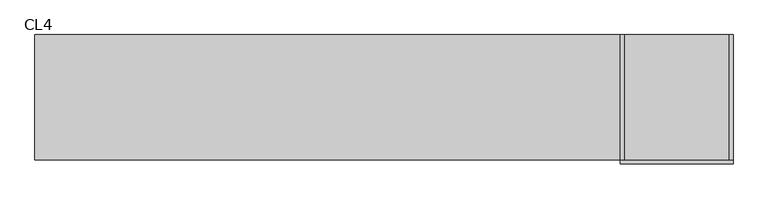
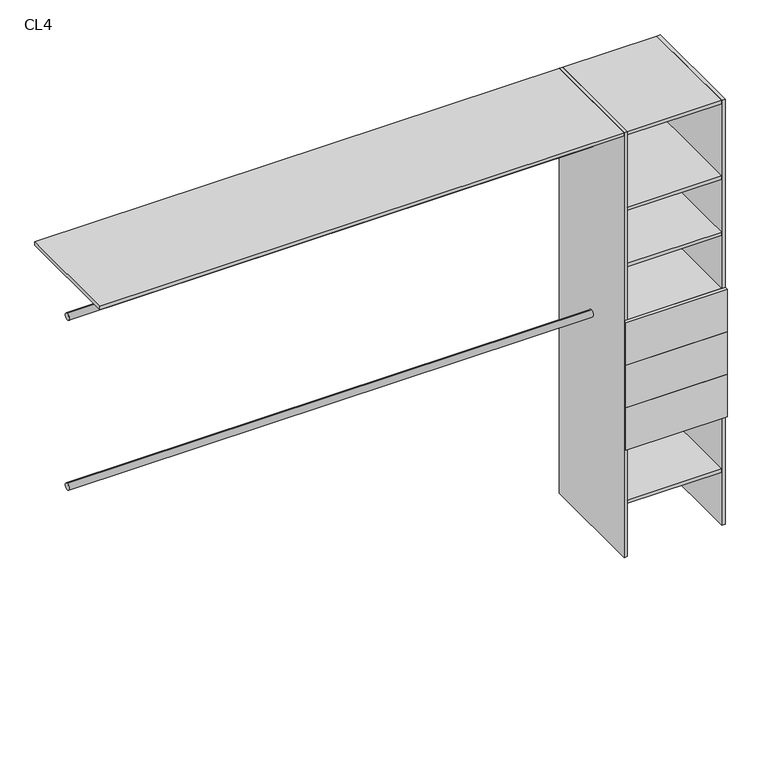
"""IFC4 building model written with IfcOpenShell, lengths in millimetres: furniture geometry, Closet 1estantes-1tubos_sin laterales : CL4."""

from ifc_helpers import new_model, si_unit, point, frame, frame_2d, origin, origin_with_axes, place, context, project, spatial, polyline, circle_curve, trimmed, segment, composite_curve, outline, extrude, source, transform, mapped, element, save


def cl4_a28d6900(model_context):
    return source(origin(), model_context, "Body", "SweptSolid", [
        extrude(outline(polyline([(225.0, 100.0), (210.0, 100.0), (210.0, 600.0), (225.0, 600.0), (225.0, 100.0)])), origin_with_axes(), (0.0, 0.0, 1.0), 2000.0),
        extrude(outline(polyline([(-210.0, 100.0), (-225.0, 100.0), (-225.0, 600.0), (-210.0, 600.0), (-210.0, 100.0)])), origin_with_axes(), (0.0, 0.0, 1.0), 2000.0),
        extrude(outline(polyline([(225.0, 100.0), (225.0, 85.0), (-225.0, 85.0), (-225.0, 100.0), (225.0, 100.0)])), frame((0.0, 0.0, 915.0), z_axis=(0.0, 0.0, 1.0), x_axis=(1.0, 0.0, 0.0)), (0.0, 0.0, 1.0), 200.0),
        extrude(outline(polyline([(225.0, 100.0), (225.0, 85.0), (-225.0, 85.0), (-225.0, 100.0), (225.0, 100.0)])), frame((0.0, 0.0, 715.0), z_axis=(0.0, 0.0, 1.0), x_axis=(1.0, 0.0, 0.0)), (0.0, 0.0, 1.0), 200.0),
        extrude(outline(polyline([(225.0, 100.0), (225.0, 85.0), (-225.0, 85.0), (-225.0, 100.0), (225.0, 100.0)])), frame((0.0, 0.0, 515.0), z_axis=(0.0, 0.0, 1.0), x_axis=(1.0, 0.0, 0.0)), (0.0, 0.0, 1.0), 200.0),
        extrude(outline(polyline([(210.0, 100.0), (-210.0, 100.0), (-210.0, 600.0), (210.0, 600.0), (210.0, 100.0)])), frame((0.0, 0.0, 1100.0), z_axis=(0.0, 0.0, 1.0), x_axis=(1.0, 0.0, 0.0)), (0.0, 0.0, 1.0), 15.0),
        extrude(outline(composite_curve([segment(trimmed(circle_curve(frame_2d((350.0, 1000.0)), 15.0), [point((350.0, 1015.0))], [point((350.0, 985.0))], False, "CARTESIAN"), True, "CONTINUOUS"), segment(trimmed(circle_curve(frame_2d((350.0, 1000.0)), 15.0), [point((350.0, 985.0))], [point((350.0, 1015.0))], False, "CARTESIAN"), True, "CONTINUOUS")], self_intersect=False)), frame((-2560.0, 0.0, 0.0), z_axis=(1.0, 0.0, 0.0), x_axis=(0.0, 1.0, 0.0)), (0.0, 0.0, 1.0), 2335.0),
        extrude(outline(composite_curve([segment(trimmed(circle_curve(frame_2d((350.0, 1800.0)), 15.0), [point((350.0, 1815.0))], [point((350.0, 1785.0))], False, "CARTESIAN"), True, "CONTINUOUS"), segment(trimmed(circle_curve(frame_2d((350.0, 1800.0)), 15.0), [point((350.0, 1785.0))], [point((350.0, 1815.0))], False, "CARTESIAN"), True, "CONTINUOUS")], self_intersect=False)), frame((-2560.0, 0.0, 0.0), z_axis=(1.0, 0.0, 0.0), x_axis=(0.0, 1.0, 0.0)), (0.0, 0.0, 1.0), 2335.0),
        extrude(outline(polyline([(210.0, 100.0), (-210.0, 100.0), (-210.0, 600.0), (210.0, 600.0), (210.0, 100.0)])), frame((0.0, 0.0, 250.0), z_axis=(0.0, 0.0, 1.0), x_axis=(1.0, 0.0, 0.0)), (0.0, 0.0, 1.0), 15.0),
        extrude(outline(polyline([(210.0, 100.0), (-210.0, 100.0), (-210.0, 600.0), (210.0, 600.0), (210.0, 100.0)])), frame((0.0, 0.0, 515.0), z_axis=(0.0, 0.0, 1.0), x_axis=(1.0, 0.0, 0.0)), (0.0, 0.0, 1.0), 15.0),
        extrude(outline(polyline([(210.0, 100.0), (-210.0, 100.0), (-210.0, 600.0), (210.0, 600.0), (210.0, 100.0)])), frame((0.0, 0.0, 1365.0), z_axis=(0.0, 0.0, 1.0), x_axis=(1.0, 0.0, 0.0)), (0.0, 0.0, 1.0), 15.0),
        extrude(outline(polyline([(210.0, 100.0), (-210.0, 100.0), (-210.0, 600.0), (210.0, 600.0), (210.0, 100.0)])), frame((0.0, 0.0, 1630.0), z_axis=(0.0, 0.0, 1.0), x_axis=(1.0, 0.0, 0.0)), (0.0, 0.0, 1.0), 15.0),
        extrude(outline(polyline([(-210.0, 100.0), (-2560.0, 100.0), (-2560.0, 600.0), (-210.0, 600.0), (-210.0, 100.0)])), frame((0.0, 0.0, 1985.0), z_axis=(0.0, 0.0, 1.0), x_axis=(1.0, 0.0, 0.0)), (0.0, 0.0, 1.0), 15.0),
        extrude(outline(polyline([(210.0, 100.0), (-210.0, 100.0), (-210.0, 600.0), (210.0, 600.0), (210.0, 100.0)])), frame((0.0, 0.0, 1985.0), z_axis=(0.0, 0.0, 1.0), x_axis=(1.0, 0.0, 0.0)), (0.0, 0.0, 1.0), 15.0),
    ])


if __name__ == "__main__":
    model = new_model("IFC4")
    model_context = context("Model", 3, world=origin())
    ifc_project = project(units=[si_unit("LENGTHUNIT", "METRE", prefix="MILLI")], contexts=[model_context])
    site = spatial("IfcSite", under=ifc_project)
    building = spatial("IfcBuilding", under=site)
    placement = place(None, origin())
    cl4_shape = cl4_a28d6900(model_context)
    element("IfcFurniture", 1, ObjectType="Closet 1estantes-1tubos_sin laterales : CL4", at=placement, inside=building, context=model_context, shape_type="MappedRepresentation", body=[
        mapped(cl4_shape, transform((0.0, 0.0, 0.0), x_axis=(1.0, 0.0, 0.0), y_axis=(0.0, 1.0, 0.0), z_axis=(0.0, 0.0, 1.0))),
    ])
    save(model, "model.ifc")
